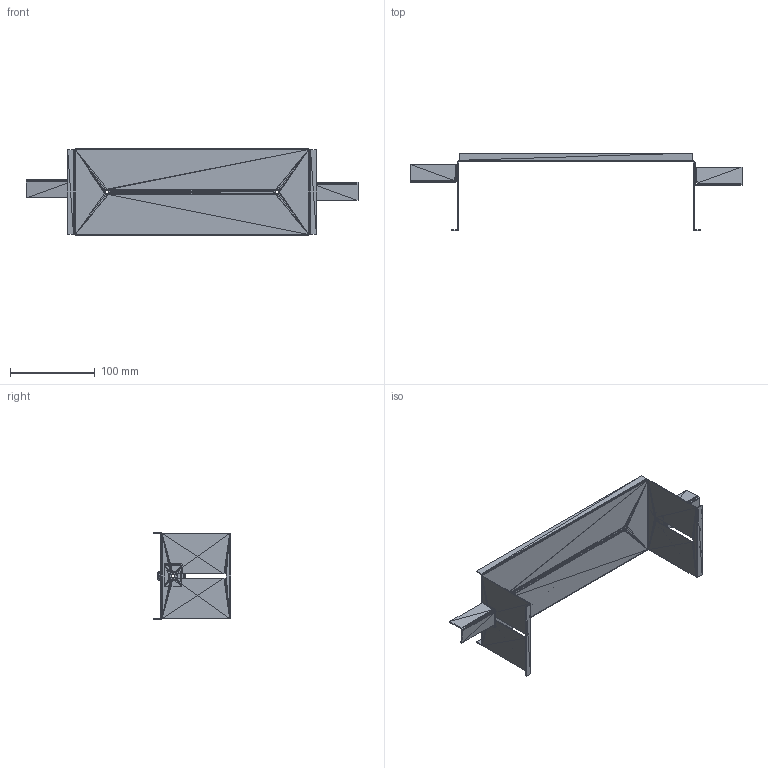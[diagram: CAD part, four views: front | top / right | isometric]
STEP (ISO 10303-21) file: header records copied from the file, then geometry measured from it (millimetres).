
FILE_DESCRIPTION((''),'2;1');
FILE_NAME('058006', '2025-08-28T08:02:22', (''), (''), 'ImageToStl.com STEP Converter','', '');
FILE_SCHEMA(('AUTOMOTIVE_DESIGN_CC2'));
Length unit declared in the file: metre
Products named in the file (1): product0
Bounding box: 391 x 91.5 x 103 mm (x, y, z)
Surface area: 114645.9 mm2 (no closed solid volume)
Topology: 0 solids, 2164 shells, 2164 faces, 6492 edges, 1074 vertices
Faces by surface type: plane 2164
Entity records: 49784 total; most frequent: DIRECTION 10822, ORIENTED_EDGE 6492, EDGE_CURVE 6492, LINE 6492, VECTOR 6492, AXIS2_PLACEMENT_3D 2165, FACE_SURFACE 2164, PLANE 2164
